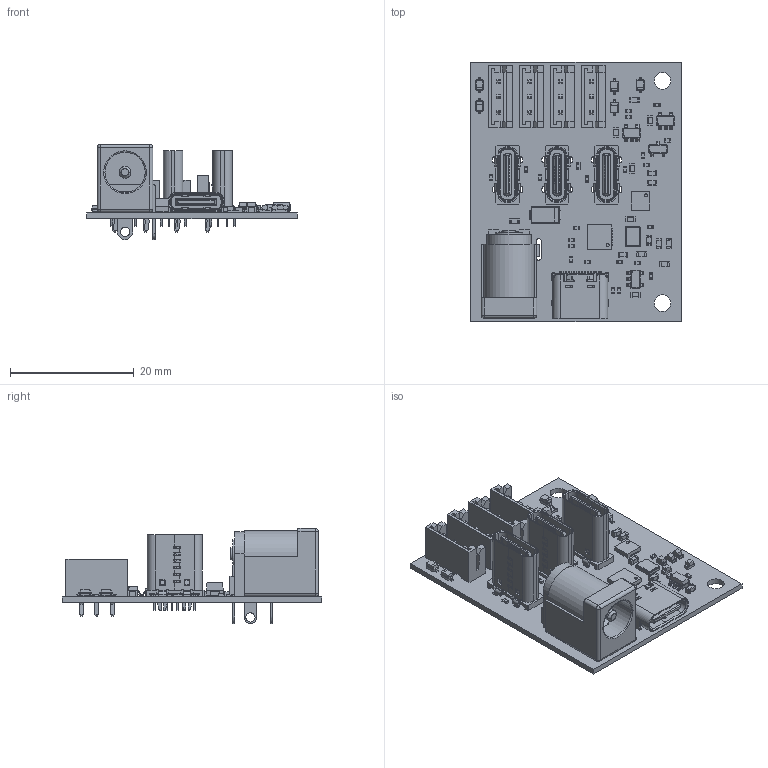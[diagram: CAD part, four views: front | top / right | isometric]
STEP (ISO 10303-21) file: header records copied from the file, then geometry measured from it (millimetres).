
FILE_DESCRIPTION(('KiCad electronic assembly'),'2;1');
FILE_NAME('elec_saint-marcelin.step','2026-11-23T15:32:32',('Pcbnew'),( 'Kicad'),'Open CASCADE STEP processor 7.9','KiCad to STEP converter' ,'Unknown');
FILE_SCHEMA(('AUTOMOTIVE_DESIGN { 1 0 10303 214 1 1 1 1 }'));
Length unit declared in the file: millimetre
Products named in the file (32): elec_saint-marcelin 1; FOO_USB-C_vert; UJ20-C-V-C-2-SMT-TR; D_SOD-323; R_0402_1005Metric; R_0603_1608Metric; LED_0603_1608Metric; C_0603_1608Metric; JST_EH_B3B-EH-A_1x03_P2.50mm_Vertical; JST_B3B_EH_A; SOT-23-5; D_SMA; DC005_jack_barrel; DC-005; SOT-23; QFN-16-1EP_3x3mm_P0.5mm_EP1.8x1.8mm; QFN-16-1EP_3x3mm_Pitch0.5mm; Crystal_SMD_3225-4Pin_3.2x2.5mm; Texas_RTW_WQFN-24-1EP_4x4mm_P0.5mm_EP2.7x2.7mm; Shou Han - USB TYPE-C 16PIN 2MD -073---3DModel-STEP-269445; TYPE-C 16PIN 2MD (073); elec_saint-marcelin-unsaved-export-bjHB6T_PCB
Assembly tree (76 placements, depth 3):
  elec_saint-marcelin 1
    FOO_USB-C_vert  x3
      UJ20-C-V-C-2-SMT-TR
    D_SOD-323  x5
      D_SOD-323
    R_0402_1005Metric  x23
      R_0402_1005Metric
    R_0603_1608Metric  x2
      R_0603_1608Metric
    LED_0603_1608Metric  x5
      LED_0603_1608Metric
    C_0603_1608Metric  x8
      C_0603_1608Metric
    JST_EH_B3B-EH-A_1x03_P2.50mm_Vertical  x4
      JST_B3B_EH_A
    SOT-23-5  x3
      SOT-23-5
    D_SMA
      D_SMA
    DC005_jack_barrel
      DC-005
    SOT-23
      SOT-23
    QFN-16-1EP_3x3mm_P0.5mm_EP1.8x1.8mm
      QFN-16-1EP_3x3mm_Pitch0.5mm
    Crystal_SMD_3225-4Pin_3.2x2.5mm
      Crystal_SMD_3225-4Pin_3.2x2.5mm
    Texas_RTW_WQFN-24-1EP_4x4mm_P0.5mm_EP2.7x2.7mm
      Texas_RTW_WQFN-24-1EP_4x4mm_P0.5mm_EP2.7x2.7mm
    Shou Han - USB TYPE-C 16PIN 2MD -073---3DModel-STEP-269445
      TYPE-C 16PIN 2MD (073)
    elec_saint-marcelin-unsaved-export-bjHB6T_PCB
Bounding box: 34 x 42 x 15.4 mm (x, y, z)
Volume: 3390.3 mm3; surface area: 8869.3 mm2
Topology: 202 solids, 202 shells, 5787 faces, 15109 edges, 9806 vertices
Faces by surface type: plane 4230, cylinder 1288, bspline 164, cone 85, torus 16, sphere 4
Full cylindrical faces by diameter (mm): 0.5 x2, 0.7 x2, 0.95 x12, 2.7 x2
Entity records: 90021 total; most frequent: CARTESIAN_POINT 15405, ORIENTED_EDGE 13874, DIRECTION 13245, EDGE_CURVE 6937, LINE 5581, VECTOR 5581, VERTEX_POINT 4504, AXIS2_PLACEMENT_3D 3832
